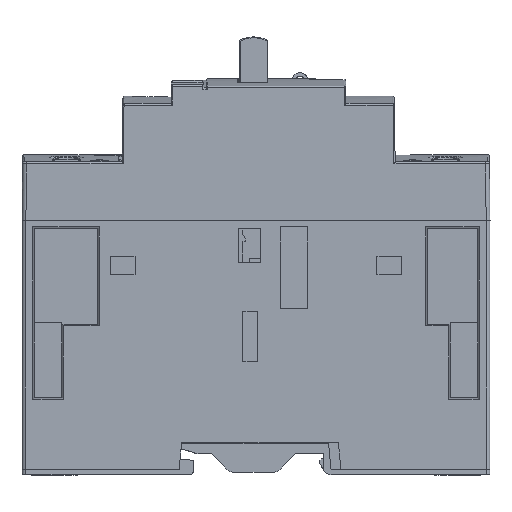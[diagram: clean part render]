
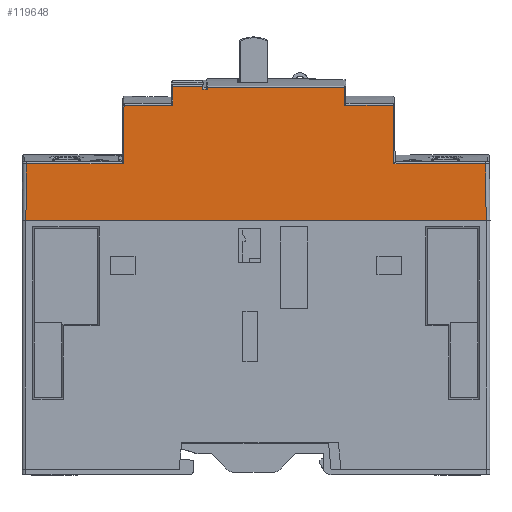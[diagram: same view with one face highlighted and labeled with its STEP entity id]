
A CAD part, front view. The second image highlights one B-rep face of the part: STEP entity #119648.
In plain terms, the highlighted planar face has unit normal (0, -1, 0.007).
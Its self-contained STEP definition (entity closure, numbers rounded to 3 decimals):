
#20957=CARTESIAN_POINT('',(-14.029,-33.487,
150.711));
#20959=DIRECTION('',(-1.,0.,0.));
#20960=VECTOR('',#20959,24.972);
#20961=CARTESIAN_POINT('',(-14.029,-33.487,
150.711));
#20962=LINE('',#20961,#20960);
#20963=CARTESIAN_POINT('',(-13.843,-33.386,
165.856));
#20964=CARTESIAN_POINT('',(-13.843,-33.386,
165.853));
#20965=CARTESIAN_POINT('',(-13.844,-33.386,
165.848));
#20966=CARTESIAN_POINT('',(-13.844,-33.386,
165.841));
#20967=CARTESIAN_POINT('',(-13.844,-33.386,
165.836));
#20968=CARTESIAN_POINT('',(-13.844,-33.386,
165.833));
#21003=CARTESIAN_POINT('',(-13.843,-33.386,
165.856));
#21050=CARTESIAN_POINT('',(-1.351,-33.386,
165.856));
#21052=DIRECTION('',(-1.,0.,0.));
#21053=VECTOR('',#21052,12.492);
#21054=CARTESIAN_POINT('',(-1.351,-33.386,
165.856));
#21055=LINE('',#21054,#21053);
#21056=DIRECTION('',(0.,-0.007,-1.));
#21057=VECTOR('',#21056,4.783);
#21058=CARTESIAN_POINT('',(-1.351,-33.354,
170.638));
#21059=LINE('',#21058,#21057);
#32414=CARTESIAN_POINT('',(79.471,-33.584,136.125));
#32449=DIRECTION('',(1.,0.,0.));
#32450=VECTOR('',#32449,118.6);
#32451=CARTESIAN_POINT('',(-39.129,-33.584,136.125));
#32452=LINE('',#32451,#32450);
#32453=CARTESIAN_POINT('',(79.344,-33.487,
150.711));
#32479=DIRECTION('',(0.012,0.007,1.));
#32480=VECTOR('',#32479,15.123);
#32481=CARTESIAN_POINT('',(-14.029,-33.487,
150.711));
#32482=LINE('',#32481,#32480);
#32483=DIRECTION('',(0.012,-0.007,-1.));
#32484=VECTOR('',#32483,15.123);
#32485=CARTESIAN_POINT('',(55.543,-33.386,
165.833));
#32486=LINE('',#32485,#32484);
#32487=DIRECTION('',(0.009,-0.007,-1.));
#32488=VECTOR('',#32487,14.587);
#32489=CARTESIAN_POINT('',(79.344,-33.487,
150.711));
#32490=LINE('',#32489,#32488);
#32491=DIRECTION('',(0.009,0.007,1.));
#32492=VECTOR('',#32491,14.587);
#32493=CARTESIAN_POINT('',(-39.129,-33.584,136.125));
#32494=LINE('',#32493,#32492);
#32499=DIRECTION('',(-1.,0.,0.));
#32500=VECTOR('',#32499,7.8);
#32501=CARTESIAN_POINT('',(6.449,-33.354,
170.639));
#32502=LINE('',#32501,#32500);
#32535=DIRECTION('',(0.,0.007,1.));
#32536=VECTOR('',#32535,0.652);
#32537=CARTESIAN_POINT('',(6.449,-33.359,
169.986));
#32538=LINE('',#32537,#32536);
#32554=DIRECTION('',(-1.,0.,-0.001));
#32555=VECTOR('',#32554,1.2);
#32556=CARTESIAN_POINT('',(7.649,-33.359,
169.987));
#32557=LINE('',#32556,#32555);
#32562=DIRECTION('',(0.,-0.007,
-1.));
#32563=VECTOR('',#32562,0.302);
#32564=CARTESIAN_POINT('',(7.649,-33.357,
170.289));
#32565=LINE('',#32564,#32563);
#32674=DIRECTION('',(-1.,0.,0.));
#32675=VECTOR('',#32674,35.399);
#32676=CARTESIAN_POINT('',(43.048,-33.357,
170.289));
#32677=LINE('',#32676,#32675);
#33373=DIRECTION('',(-1.,0.,0.));
#33374=VECTOR('',#33373,23.616);
#33375=CARTESIAN_POINT('',(79.344,-33.487,
150.711));
#33376=LINE('',#33375,#33374);
#33377=CARTESIAN_POINT('',(55.728,-33.487,
150.711));
#33398=CARTESIAN_POINT('',(55.543,-33.386,
165.833));
#33399=CARTESIAN_POINT('',(55.543,-33.386,
165.836));
#33400=CARTESIAN_POINT('',(55.543,-33.386,
165.841));
#33401=CARTESIAN_POINT('',(55.542,-33.386,
165.848));
#33402=CARTESIAN_POINT('',(55.542,-33.386,
165.853));
#33403=CARTESIAN_POINT('',(55.542,-33.386,
165.856));
#33438=DIRECTION('',(-1.,0.,0.));
#33439=VECTOR('',#33438,12.492);
#33440=CARTESIAN_POINT('',(55.542,-33.386,
165.856));
#33441=LINE('',#33440,#33439);
#33572=DIRECTION('',(0.,0.007,1.));
#33573=VECTOR('',#33572,4.409);
#33574=CARTESIAN_POINT('',(43.049,-33.386,
165.856));
#33575=LINE('',#33574,#33573);
#33581=CARTESIAN_POINT('',(43.049,-33.357,
170.265));
#33582=CARTESIAN_POINT('',(43.049,-33.357,
170.268));
#33583=CARTESIAN_POINT('',(43.049,-33.357,
170.273));
#33584=CARTESIAN_POINT('',(43.049,-33.357,
170.281));
#33585=CARTESIAN_POINT('',(43.048,-33.357,
170.287));
#33586=CARTESIAN_POINT('',(43.048,-33.357,
170.289));
#35656=CARTESIAN_POINT('',(-39.001,-33.487,
150.711));
#67017=VERTEX_POINT('',#32453);
#67019=VERTEX_POINT('',#35656);
#68308=VERTEX_POINT('',#32414);
#68309=CARTESIAN_POINT('',(-39.129,-33.584,136.125));
#68310=VERTEX_POINT('',#68309);
#71864=VERTEX_POINT('',#21003);
#71865=VERTEX_POINT('',#20968);
#71866=VERTEX_POINT('',#21050);
#71867=CARTESIAN_POINT('',(-1.351,-33.354,
170.638));
#71868=VERTEX_POINT('',#71867);
#71869=CARTESIAN_POINT('',(6.449,-33.359,
169.986));
#71870=VERTEX_POINT('',#71869);
#71871=CARTESIAN_POINT('',(6.449,-33.354,
170.639));
#71872=VERTEX_POINT('',#71871);
#71873=CARTESIAN_POINT('',(7.649,-33.357,
170.289));
#71874=CARTESIAN_POINT('',(7.649,-33.359,
169.987));
#71875=VERTEX_POINT('',#71873);
#71876=VERTEX_POINT('',#71874);
#71877=CARTESIAN_POINT('',(43.048,-33.357,
170.289));
#71878=VERTEX_POINT('',#71877);
#71879=VERTEX_POINT('',#33581);
#71880=CARTESIAN_POINT('',(43.049,-33.386,
165.856));
#71881=VERTEX_POINT('',#71880);
#71882=CARTESIAN_POINT('',(55.542,-33.386,
165.856));
#71883=VERTEX_POINT('',#71882);
#71884=VERTEX_POINT('',#33398);
#72994=VERTEX_POINT('',#33377);
#72995=VERTEX_POINT('',#20957);
#119610=CARTESIAN_POINT('',(-40.129,-33.484,
151.148));
#119611=DIRECTION('',(0.,-1.,0.007));
#119612=DIRECTION('',(0.,-0.007,-1.));
#119613=AXIS2_PLACEMENT_3D('',#119610,#119611,#119612);
#119614=PLANE('',#119613);
#119615=ORIENTED_EDGE('',*,*,#104865,.F.);
#119616=ORIENTED_EDGE('',*,*,#104882,.T.);
#119617=ORIENTED_EDGE('',*,*,#104906,.F.);
#119618=ORIENTED_EDGE('',*,*,#105073,.F.);
#119619=ORIENTED_EDGE('',*,*,#105090,.F.);
#119621=ORIENTED_EDGE('',*,*,#119620,.F.);
#119623=ORIENTED_EDGE('',*,*,#119622,.F.);
#119625=ORIENTED_EDGE('',*,*,#119624,.F.);
#119627=ORIENTED_EDGE('',*,*,#119626,.F.);
#119629=ORIENTED_EDGE('',*,*,#119628,.F.);
#119631=ORIENTED_EDGE('',*,*,#119630,.F.);
#119633=ORIENTED_EDGE('',*,*,#119632,.F.);
#119635=ORIENTED_EDGE('',*,*,#119634,.F.);
#119637=ORIENTED_EDGE('',*,*,#119636,.F.);
#119639=ORIENTED_EDGE('',*,*,#119638,.T.);
#119641=ORIENTED_EDGE('',*,*,#119640,.F.);
#119642=ORIENTED_EDGE('',*,*,#119601,.T.);
#119643=ORIENTED_EDGE('',*,*,#119590,.F.);
#119645=ORIENTED_EDGE('',*,*,#119644,.T.);
#119646=EDGE_LOOP('',(#119615,#119616,#119617,#119618,#119619,#119621,#119623,
#119625,#119627,#119629,#119631,#119633,#119635,#119637,#119639,#119641,#119642,
#119643,#119645));
#119647=FACE_OUTER_BOUND('',#119646,.F.);
#119648=ADVANCED_FACE('',(#119647),#119614,.T.);
#20969=B_SPLINE_CURVE_WITH_KNOTS('',3,(#20963,#20964,#20965,#20966,#20967,
#20968),.UNSPECIFIED.,.F.,.F.,(4,1,1,4),(0.,0.333,
0.667,1.),.UNSPECIFIED.);
#33404=B_SPLINE_CURVE_WITH_KNOTS('',3,(#33398,#33399,#33400,#33401,#33402,
#33403),.UNSPECIFIED.,.F.,.F.,(4,1,1,4),(0.,0.333,
0.667,1.),.UNSPECIFIED.);
#33587=B_SPLINE_CURVE_WITH_KNOTS('',3,(#33581,#33582,#33583,#33584,#33585,
#33586),.UNSPECIFIED.,.F.,.F.,(4,1,1,4),(0.,0.333,
0.667,1.),.UNSPECIFIED.);
#104865=EDGE_CURVE('',#72995,#67019,#20962,.T.);
#104882=EDGE_CURVE('',#72995,#71865,#32482,.T.);
#104906=EDGE_CURVE('',#71864,#71865,#20969,.T.);
#105073=EDGE_CURVE('',#71866,#71864,#21055,.T.);
#105090=EDGE_CURVE('',#71868,#71866,#21059,.T.);
#119590=EDGE_CURVE('',#68310,#68308,#32452,.T.);
#119601=EDGE_CURVE('',#67017,#68308,#32490,.T.);
#119620=EDGE_CURVE('',#71872,#71868,#32502,.T.);
#119622=EDGE_CURVE('',#71870,#71872,#32538,.T.);
#119624=EDGE_CURVE('',#71876,#71870,#32557,.T.);
#119626=EDGE_CURVE('',#71875,#71876,#32565,.T.);
#119628=EDGE_CURVE('',#71878,#71875,#32677,.T.);
#119630=EDGE_CURVE('',#71879,#71878,#33587,.T.);
#119632=EDGE_CURVE('',#71881,#71879,#33575,.T.);
#119634=EDGE_CURVE('',#71883,#71881,#33441,.T.);
#119636=EDGE_CURVE('',#71884,#71883,#33404,.T.);
#119638=EDGE_CURVE('',#71884,#72994,#32486,.T.);
#119640=EDGE_CURVE('',#67017,#72994,#33376,.T.);
#119644=EDGE_CURVE('',#68310,#67019,#32494,.T.);
